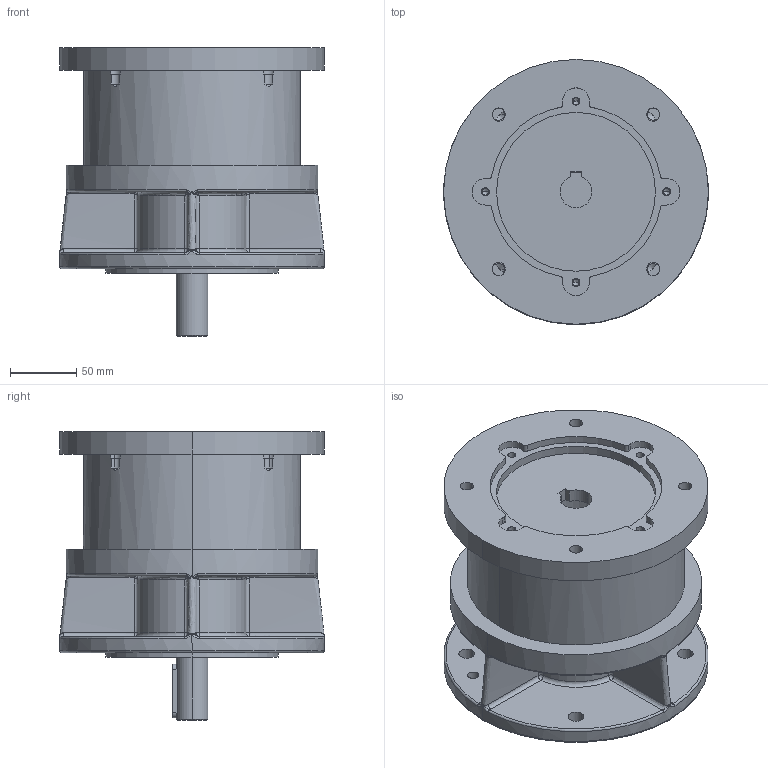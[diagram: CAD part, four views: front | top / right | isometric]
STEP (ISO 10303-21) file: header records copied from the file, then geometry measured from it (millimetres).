
FILE_DESCRIPTION (( 'STEP AP214' ), '1' );
FILE_NAME ('S-M40-K26.STEP', '2019-03-26T08:00:32', ( 'tec4' ), ( '' ), 'SwSTEP 2.0', 'SolidWorks 2015', '' );
FILE_SCHEMA (( 'AUTOMOTIVE_DESIGN' ));
Length unit declared in the file: millimetre
Products named in the file (1): S-M40-K26
Bounding box: 200 x 200 x 218.15 mm (x, y, z)
Volume: 2663675.3 mm3; surface area: 310022.3 mm2
Topology: 3 solids, 3 shells, 285 faces, 732 edges, 435 vertices
Faces by surface type: cylinder 101, bspline 80, plane 46, torus 28, cone 22, sphere 8
Entity records: 13521 total; most frequent: CARTESIAN_POINT 7095, ORIENTED_EDGE 1396, DIRECTION 1272, EDGE_CURVE 698, AXIS2_PLACEMENT_3D 553, VERTEX_POINT 435, CIRCLE 347, EDGE_LOOP 325
